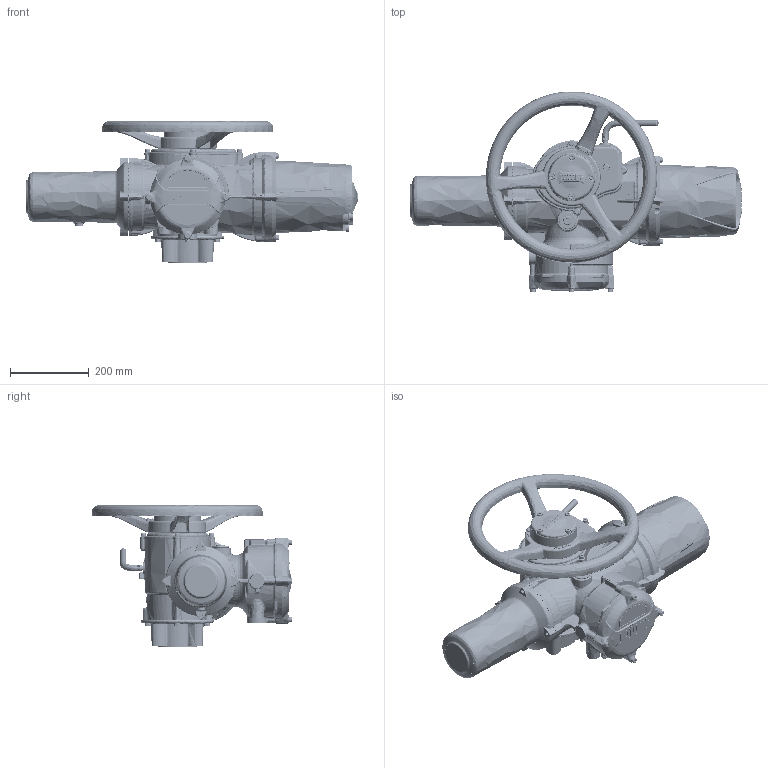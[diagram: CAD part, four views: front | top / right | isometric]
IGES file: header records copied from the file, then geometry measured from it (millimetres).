
Start section: C
Global section: file name: IQ3H-2SP-THW-B1-1.igs; native system: By Siemens PLM Incorporated; preprocessor: XPlus GENERIC/IGES 23.0.57; author: Author; organization: Title; date: 20210329.112506; units: millimetre
Bounding box: 843.5 x 510.09 x 360.74 mm (x, y, z)
Surface area: 1346245.8 mm2 (no closed solid volume)
Topology: 0 solids, 0 shells, 6259 faces, 35074 edges, 34813 vertices
Faces by surface type: bspline 6259
